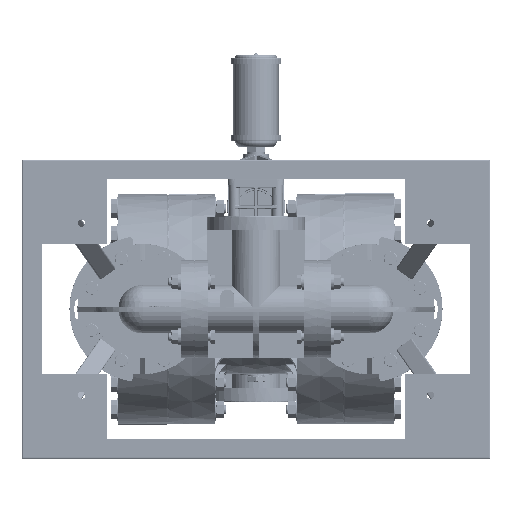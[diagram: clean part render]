
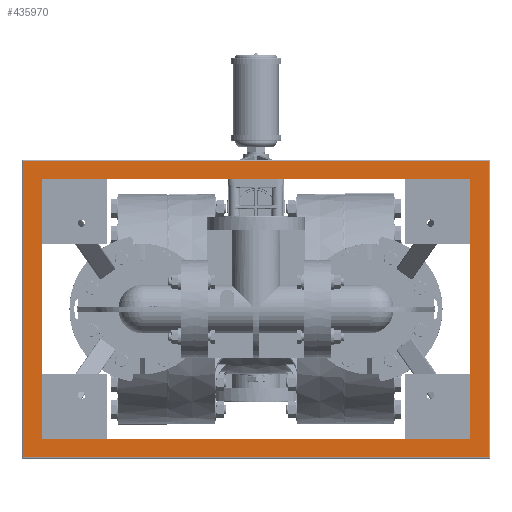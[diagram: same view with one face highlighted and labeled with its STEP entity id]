
A CAD part, front view. The second image highlights one B-rep face of the part: STEP entity #435970.
In plain terms, the highlighted planar face has unit normal (0, -1, 0).
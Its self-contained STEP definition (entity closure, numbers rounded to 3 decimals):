
#1361 = EDGE_CURVE ( 'NONE', #161273, #403574, #189499, .T. ) ;
#10292 = CARTESIAN_POINT ( 'NONE',  ( 16.5, -26.38, -10. ) ) ;
#10559 = CARTESIAN_POINT ( 'NONE',  ( -17.89, -26.38, -11.39 ) ) ;
#13052 = CARTESIAN_POINT ( 'NONE',  ( -16.5, -26.38, -10. ) ) ;
#18665 = DIRECTION ( 'NONE',  ( 1., 0., 0. ) ) ;
#27916 = VERTEX_POINT ( 'NONE', #53377 ) ;
#29119 = VECTOR ( 'NONE', #18665, 39.37 ) ;
#50072 = EDGE_CURVE ( 'NONE', #153963, #27916, #331145, .T. ) ;
#53377 = CARTESIAN_POINT ( 'NONE',  ( 16.5, -26.38, 10. ) ) ;
#55360 = CARTESIAN_POINT ( 'NONE',  ( -17.89, -26.38, -11.39 ) ) ;
#62588 = LINE ( 'NONE', #230263, #359953 ) ;
#67675 = FACE_BOUND ( 'NONE', #88592, .T. ) ;
#69486 = DIRECTION ( 'NONE',  ( 0., 0., 1. ) ) ;
#73096 = FACE_OUTER_BOUND ( 'NONE', #288701, .T. ) ;
#73670 = CARTESIAN_POINT ( 'NONE',  ( -16.5, -26.38, -10. ) ) ;
#76933 = DIRECTION ( 'NONE',  ( -1., 0., 0. ) ) ;
#76954 = EDGE_CURVE ( 'NONE', #275805, #458428, #295446, .T. ) ;
#77514 = VECTOR ( 'NONE', #463157, 39.37 ) ;
#79249 = AXIS2_PLACEMENT_3D ( 'NONE', #188661, #356373, #147403 ) ;
#88592 = EDGE_LOOP ( 'NONE', ( #399775, #307066, #173552, #160471 ) ) ;
#110914 = VECTOR ( 'NONE', #69486, 39.37 ) ;
#142132 = DIRECTION ( 'NONE',  ( 1., 0., 0. ) ) ;
#147403 = DIRECTION ( 'NONE',  ( 1., 0., 0. ) ) ;
#153963 = VERTEX_POINT ( 'NONE', #10292 ) ;
#159682 = CARTESIAN_POINT ( 'NONE',  ( 17.89, -26.38, 11.39 ) ) ;
#160471 = ORIENTED_EDGE ( 'NONE', *, *, #192572, .F. ) ;
#161273 = VERTEX_POINT ( 'NONE', #493026 ) ;
#164546 = EDGE_CURVE ( 'NONE', #27916, #161273, #62588, .T. ) ;
#166290 = CARTESIAN_POINT ( 'NONE',  ( -17.89, -26.38, 11.39 ) ) ;
#173552 = ORIENTED_EDGE ( 'NONE', *, *, #50072, .F. ) ;
#188661 = CARTESIAN_POINT ( 'NONE',  ( 0., -26.38, 0. ) ) ;
#189499 = LINE ( 'NONE', #390266, #311198 ) ;
#192572 = EDGE_CURVE ( 'NONE', #403574, #153963, #389568, .T. ) ;
#195187 = CARTESIAN_POINT ( 'NONE',  ( 17.89, -26.38, 11.39 ) ) ;
#208349 = ORIENTED_EDGE ( 'NONE', *, *, #76954, .T. ) ;
#210164 = DIRECTION ( 'NONE',  ( 0., 0., 1. ) ) ;
#222355 = VERTEX_POINT ( 'NONE', #359594 ) ;
#230263 = CARTESIAN_POINT ( 'NONE',  ( 16.5, -26.38, 10. ) ) ;
#240752 = PLANE ( 'NONE',  #79249 ) ;
#241862 = LINE ( 'NONE', #195187, #483427 ) ;
#244093 = CARTESIAN_POINT ( 'NONE',  ( -17.89, -26.38, 11.39 ) ) ;
#249123 = VECTOR ( 'NONE', #142132, 39.37 ) ;
#275805 = VERTEX_POINT ( 'NONE', #244093 ) ;
#288701 = EDGE_LOOP ( 'NONE', ( #346973, #300799, #208349, #293264 ) ) ;
#293264 = ORIENTED_EDGE ( 'NONE', *, *, #456176, .T. ) ;
#295345 = CARTESIAN_POINT ( 'NONE',  ( 16.5, -26.38, -10. ) ) ;
#295446 = LINE ( 'NONE', #166290, #77514 ) ;
#300799 = ORIENTED_EDGE ( 'NONE', *, *, #385332, .T. ) ;
#307066 = ORIENTED_EDGE ( 'NONE', *, *, #164546, .F. ) ;
#311198 = VECTOR ( 'NONE', #401140, 39.37 ) ;
#312734 = DIRECTION ( 'NONE',  ( -1., 0., 0. ) ) ;
#330428 = CARTESIAN_POINT ( 'NONE',  ( 17.89, -26.38, -11.39 ) ) ;
#331145 = LINE ( 'NONE', #295345, #413380 ) ;
#346973 = ORIENTED_EDGE ( 'NONE', *, *, #489623, .T. ) ;
#356373 = DIRECTION ( 'NONE',  ( 0., 1., 0. ) ) ;
#359594 = CARTESIAN_POINT ( 'NONE',  ( 17.89, -26.38, -11.39 ) ) ;
#359953 = VECTOR ( 'NONE', #312734, 39.37 ) ;
#369571 = VERTEX_POINT ( 'NONE', #159682 ) ;
#385332 = EDGE_CURVE ( 'NONE', #369571, #275805, #241862, .T. ) ;
#389568 = LINE ( 'NONE', #13052, #249123 ) ;
#390266 = CARTESIAN_POINT ( 'NONE',  ( -16.5, -26.38, 10. ) ) ;
#399775 = ORIENTED_EDGE ( 'NONE', *, *, #1361, .F. ) ;
#401140 = DIRECTION ( 'NONE',  ( 0., 0., -1. ) ) ;
#403574 = VERTEX_POINT ( 'NONE', #73670 ) ;
#413380 = VECTOR ( 'NONE', #210164, 39.37 ) ;
#428413 = LINE ( 'NONE', #10559, #29119 ) ;
#435970 = ADVANCED_FACE ( 'NONE', ( #73096, #67675 ), #240752, .F. ) ;
#446102 = LINE ( 'NONE', #330428, #110914 ) ;
#456176 = EDGE_CURVE ( 'NONE', #458428, #222355, #428413, .T. ) ;
#458428 = VERTEX_POINT ( 'NONE', #55360 ) ;
#463157 = DIRECTION ( 'NONE',  ( 0., 0., -1. ) ) ;
#483427 = VECTOR ( 'NONE', #76933, 39.37 ) ;
#489623 = EDGE_CURVE ( 'NONE', #222355, #369571, #446102, .T. ) ;
#493026 = CARTESIAN_POINT ( 'NONE',  ( -16.5, -26.38, 10. ) ) ;
